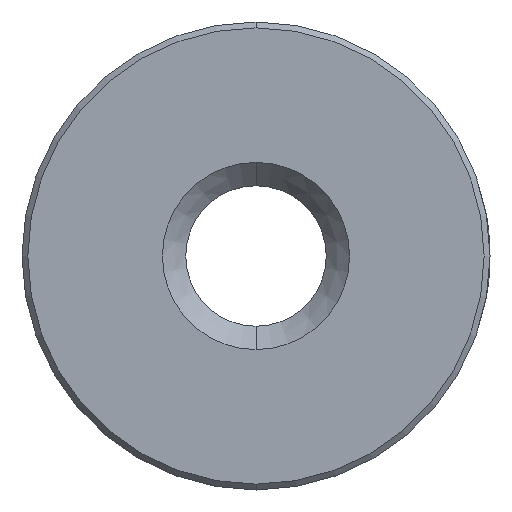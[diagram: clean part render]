
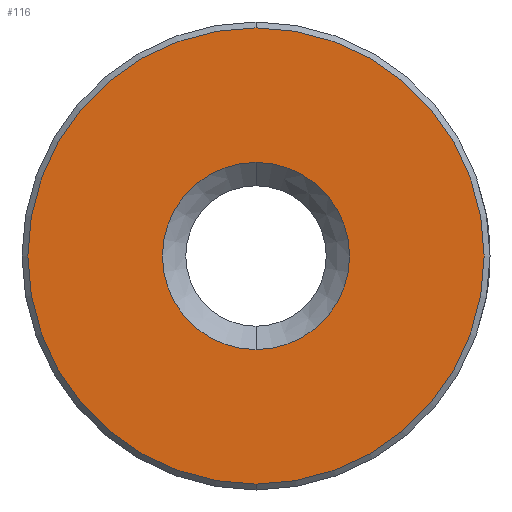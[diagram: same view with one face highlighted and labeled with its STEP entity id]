
A CAD part, front view. The second image highlights one B-rep face of the part: STEP entity #116.
In plain terms, the highlighted planar face has unit normal (0, -1, 0).
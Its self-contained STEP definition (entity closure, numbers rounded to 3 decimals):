
#4 = DIRECTION ( 'NONE',  ( 0., -1., 0. ) ) ;
#7 = CARTESIAN_POINT ( 'NONE',  ( 0., 0., -10. ) ) ;
#18 = ORIENTED_EDGE ( 'NONE', *, *, #762, .T. ) ;
#43 = CARTESIAN_POINT ( 'NONE',  ( 0., 0., -14. ) ) ;
#62 = VERTEX_POINT ( 'NONE', #629 ) ;
#90 = DIRECTION ( 'NONE',  ( 0., 1., 0. ) ) ;
#111 = EDGE_LOOP ( 'NONE', ( #655, #530 ) ) ;
#116 = ADVANCED_FACE ( 'NONE', ( #927, #679 ), #946, .T. ) ;
#168 = CARTESIAN_POINT ( 'NONE',  ( 0., 0., -10. ) ) ;
#181 = AXIS2_PLACEMENT_3D ( 'NONE', #168, #768, #392 ) ;
#229 = CARTESIAN_POINT ( 'NONE',  ( 0., 0., -10. ) ) ;
#233 = DIRECTION ( 'NONE',  ( 0., 0., -1. ) ) ;
#238 = DIRECTION ( 'NONE',  ( 0., 0., -1. ) ) ;
#241 = DIRECTION ( 'NONE',  ( 0., -1., 0. ) ) ;
#317 = VERTEX_POINT ( 'NONE', #350 ) ;
#330 = AXIS2_PLACEMENT_3D ( 'NONE', #589, #523, #981 ) ;
#350 = CARTESIAN_POINT ( 'NONE',  ( 0., 0., -0.25 ) ) ;
#383 = CARTESIAN_POINT ( 'NONE',  ( 0., 0., -10. ) ) ;
#392 = DIRECTION ( 'NONE',  ( 0., 0., -1. ) ) ;
#397 = CIRCLE ( 'NONE', #568, 9.75 ) ;
#421 = EDGE_CURVE ( 'NONE', #952, #797, #439, .T. ) ;
#439 = CIRCLE ( 'NONE', #330, 4. ) ;
#523 = DIRECTION ( 'NONE',  ( 0., 1., 0. ) ) ;
#530 = ORIENTED_EDGE ( 'NONE', *, *, #798, .T. ) ;
#548 = AXIS2_PLACEMENT_3D ( 'NONE', #229, #4, #758 ) ;
#549 = EDGE_CURVE ( 'NONE', #317, #62, #641, .T. ) ;
#568 = AXIS2_PLACEMENT_3D ( 'NONE', #383, #241, #238 ) ;
#589 = CARTESIAN_POINT ( 'NONE',  ( 0., 0., -10. ) ) ;
#603 = AXIS2_PLACEMENT_3D ( 'NONE', #7, #90, #233 ) ;
#605 = ORIENTED_EDGE ( 'NONE', *, *, #421, .T. ) ;
#629 = CARTESIAN_POINT ( 'NONE',  ( 0., 0., -19.75 ) ) ;
#641 = CIRCLE ( 'NONE', #548, 9.75 ) ;
#655 = ORIENTED_EDGE ( 'NONE', *, *, #549, .T. ) ;
#679 = FACE_BOUND ( 'NONE', #915, .T. ) ;
#721 = CIRCLE ( 'NONE', #603, 4. ) ;
#758 = DIRECTION ( 'NONE',  ( 0., 0., -1. ) ) ;
#762 = EDGE_CURVE ( 'NONE', #797, #952, #721, .T. ) ;
#768 = DIRECTION ( 'NONE',  ( 0., -1., 0. ) ) ;
#797 = VERTEX_POINT ( 'NONE', #925 ) ;
#798 = EDGE_CURVE ( 'NONE', #62, #317, #397, .T. ) ;
#915 = EDGE_LOOP ( 'NONE', ( #605, #18 ) ) ;
#925 = CARTESIAN_POINT ( 'NONE',  ( 0., 0., -6. ) ) ;
#927 = FACE_OUTER_BOUND ( 'NONE', #111, .T. ) ;
#946 = PLANE ( 'NONE',  #181 ) ;
#952 = VERTEX_POINT ( 'NONE', #43 ) ;
#981 = DIRECTION ( 'NONE',  ( 0., 0., -1. ) ) ;
